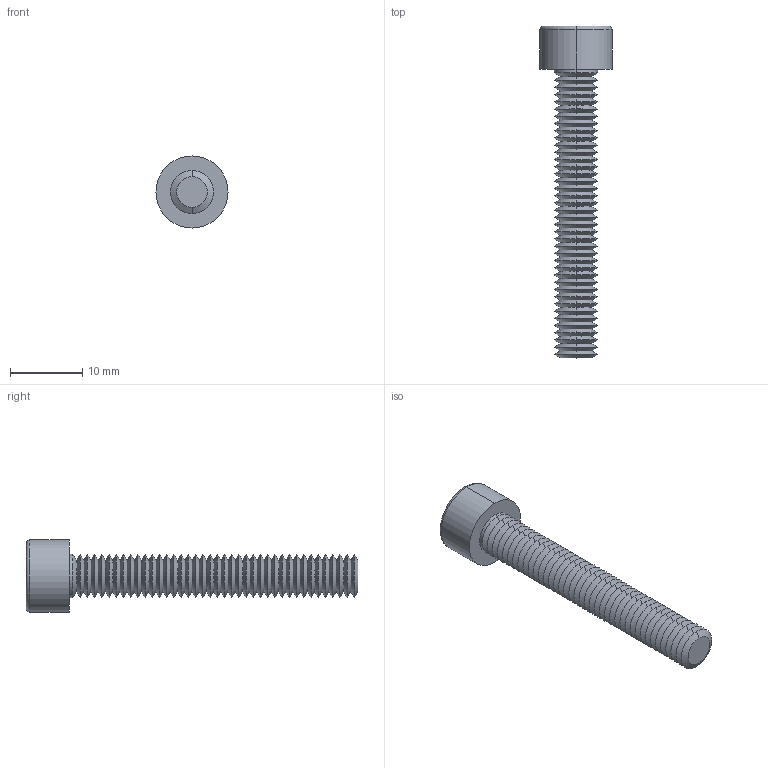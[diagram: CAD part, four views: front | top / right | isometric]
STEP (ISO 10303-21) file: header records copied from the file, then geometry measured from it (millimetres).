
FILE_DESCRIPTION (( 'STEP AP203' ), '1' );
FILE_NAME ('91N.060.0400.step', '2025-05-20T08:53:14', ( '' ), ( '' ), 'SwSTEP 2.0', 'SolidWorks 2019', '' );
FILE_SCHEMA (( 'CONFIG_CONTROL_DESIGN' ));
Length unit declared in the file: millimetre
Products named in the file (1): 91N.060.0400
Bounding box: 10 x 46 x 10 mm (x, y, z)
Volume: 1191.3 mm3; surface area: 1697 mm2
Topology: 1 solids, 1 shells, 188 faces, 375 edges, 189 vertices
Faces by surface type: cone 167, plane 15, cylinder 4, torus 2
Entity records: 4778 total; most frequent: DIRECTION 927, CARTESIAN_POINT 778, ORIENTED_EDGE 746, EDGE_CURVE 373, AXIS2_PLACEMENT_3D 372, EDGE_LOOP 190, VERTEX_POINT 189, FACE_OUTER_BOUND 188
